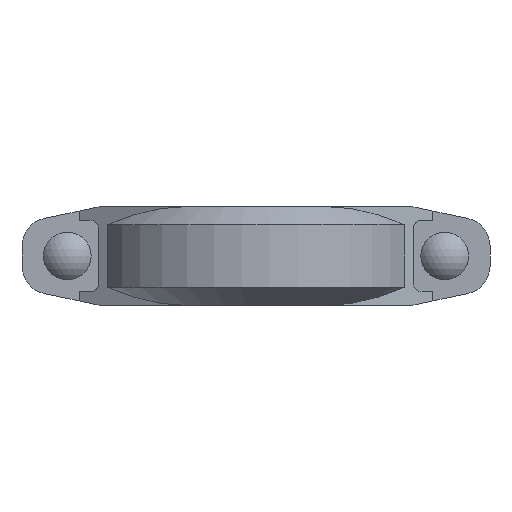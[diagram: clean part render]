
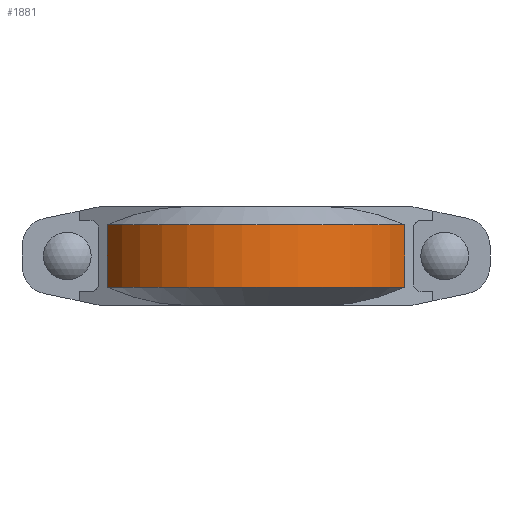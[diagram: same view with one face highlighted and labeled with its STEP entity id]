
A CAD part, front view. The second image highlights one B-rep face of the part: STEP entity #1881.
In plain terms, the highlighted cylindrical face has radius 88.138 mm (diameter 176.276 mm), a partial arc.
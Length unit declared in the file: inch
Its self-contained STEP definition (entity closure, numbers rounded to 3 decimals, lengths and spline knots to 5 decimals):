
#210=FACE_OUTER_BOUND('',#317,.T.);
#317=EDGE_LOOP('',(#1565,#1566,#1567,#1568));
#398=LINE('',#2838,#569);
#454=LINE('',#3001,#625);
#569=VECTOR('',#2273,0.3937);
#625=VECTOR('',#2405,0.3937);
#725=CIRCLE('',#2033,3.47);
#729=CIRCLE('',#2040,3.47);
#814=VERTEX_POINT('',#2833);
#815=VERTEX_POINT('',#2837);
#871=VERTEX_POINT('',#2996);
#872=VERTEX_POINT('',#3000);
#998=EDGE_CURVE('',#815,#814,#398,.T.);
#1073=EDGE_CURVE('',#872,#871,#454,.T.);
#1094=EDGE_CURVE('',#814,#872,#725,.T.);
#1101=EDGE_CURVE('',#815,#871,#729,.T.);
#1565=ORIENTED_EDGE('',*,*,#998,.T.);
#1566=ORIENTED_EDGE('',*,*,#1094,.T.);
#1567=ORIENTED_EDGE('',*,*,#1073,.T.);
#1568=ORIENTED_EDGE('',*,*,#1101,.F.);
#1701=CYLINDRICAL_SURFACE('',#2057,3.47);
#1881=ADVANCED_FACE('',(#210),#1701,.T.);
#2033=AXIS2_PLACEMENT_3D('',#3038,#2444,#2445);
#2040=AXIS2_PLACEMENT_3D('',#3052,#2461,#2462);
#2057=AXIS2_PLACEMENT_3D('',#3091,#2509,#2510);
#2273=DIRECTION('',(0.,0.,1.));
#2405=DIRECTION('',(0.,0.,-1.));
#2444=DIRECTION('center_axis',(0.,0.,-1.));
#2445=DIRECTION('ref_axis',(0.,-1.,0.));
#2461=DIRECTION('center_axis',(0.,0.,-1.));
#2462=DIRECTION('ref_axis',(0.,-1.,0.));
#2509=DIRECTION('center_axis',(0.,0.,-1.));
#2510=DIRECTION('ref_axis',(0.,-1.,0.));
#2833=CARTESIAN_POINT('',(3.12396,-1.51056,0.655));
#2837=CARTESIAN_POINT('',(3.12396,-1.51056,-0.655));
#2838=CARTESIAN_POINT('',(3.12396,-1.51056,0.));
#2996=CARTESIAN_POINT('',(-3.12396,-1.51056,-0.655));
#3000=CARTESIAN_POINT('',(-3.12396,-1.51056,0.655));
#3001=CARTESIAN_POINT('',(-3.12396,-1.51056,0.));
#3038=CARTESIAN_POINT('Origin',(0.,0.,0.655));
#3052=CARTESIAN_POINT('Origin',(0.,0.,-0.655));
#3091=CARTESIAN_POINT('Origin',(0.,0.,0.));
